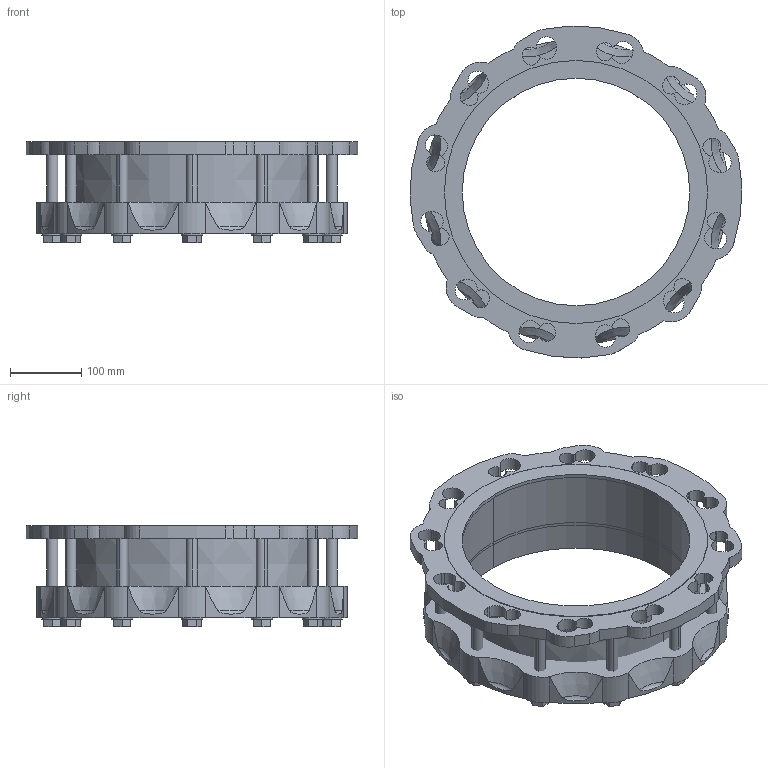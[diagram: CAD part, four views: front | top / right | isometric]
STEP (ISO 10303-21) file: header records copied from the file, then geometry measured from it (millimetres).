
FILE_DESCRIPTION((''),'2;1');
FILE_NAME('FLEXLOCK_323-9_326_PN_ASM','2020-08-05T',('MReader'),(''),'CREO PARAMETRIC BY PTC INC, 2016130','CREO PARAMETRIC BY PTC INC, 2016130','');
FILE_SCHEMA(('CONFIG_CONTROL_DESIGN'));
Length unit declared in the file: millimetre
Products named in the file (3): FLEXLOCK_ADAPTOR_323-9_326; FLEXLOCK_ENDRING_323-9_326; FLEXLOCK_323-9_326_PN_ASM
Assembly tree (2 placements, depth 2):
  FLEXLOCK_323-9_326_PN_ASM
    FLEXLOCK_ADAPTOR_323-9_326
    FLEXLOCK_ENDRING_323-9_326
Bounding box: 466.78 x 466.78 x 143 mm (x, y, z)
Volume: 4143209.7 mm3; surface area: 766721.1 mm2
Topology: 2 solids, 2 shells, 489 faces, 1254 edges, 808 vertices
Faces by surface type: cylinder 208, plane 207, cone 26, sphere 24, torus 24
Entity records: 15703 total; most frequent: CARTESIAN_POINT 3539, DIRECTION 2590, ORIENTED_EDGE 2460, EDGE_CURVE 1230, AXIS2_PLACEMENT_3D 962, VERTEX_POINT 808, VECTOR 666, LINE 666
